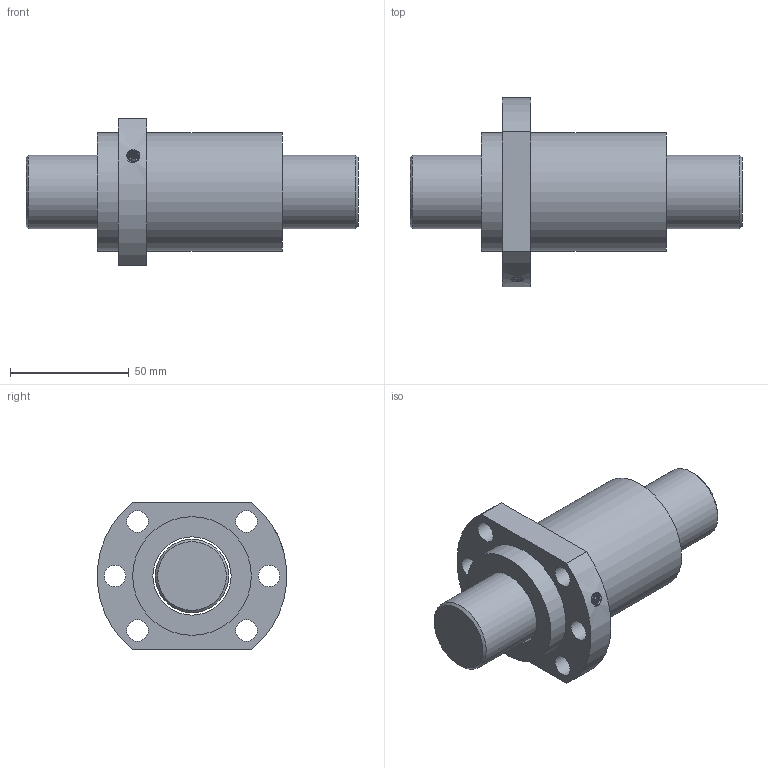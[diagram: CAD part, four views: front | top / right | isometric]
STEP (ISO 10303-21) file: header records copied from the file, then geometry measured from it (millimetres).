
FILE_DESCRIPTION(/* description */ ('Unknown','CAx-IF Rec.Pracs.---Representation and Presentation of Product Manufacturing Information (PMI)---4.0---2014-10-13','CAx-IF Rec.Pracs.---3D Tessellated Geometry---0.4---2014-09-14','2;1'),/* implementation_level */ '2;1');
FILE_NAME(/* name */ 'SFA3232-1.8',/* time_stamp */ '2020-12-08T08:59:52+08:00',/* author */ ('Unknown'),/* organization */ ('Unknown'),/* preprocessor_version */ 'ST-DEVELOPER v16.7',/* originating_system */ 'Solid Edge',/* authorisation */ 'Unknown');
FILE_SCHEMA (('AP242_MANAGED_MODEL_BASED_3D_ENGINEERING_MIM_LF { 1 0 10303 442 1 1 4 }'));
Length unit declared in the file: millimetre
Products named in the file (1): SFA3232-1
Bounding box: 140 x 79.74 x 62 mm (x, y, z)
Volume: 216348.1 mm3; surface area: 45159.1 mm2
Topology: 2 solids, 2 shells, 28 faces, 65 edges, 44 vertices
Faces by surface type: cylinder 15, plane 9, bspline 2, cone 2
Full cylindrical faces by diameter (mm): 4 x1, 9 x6, 31 x1, 33 x1, 50 x2
Entity records: 3125 total; most frequent: CARTESIAN_POINT 2454, DIRECTION 126, ORIENTED_EDGE 96, EDGE_LOOP 60, FACE_BOUND 60, AXIS2_PLACEMENT_3D 60, EDGE_CURVE 48, VERTEX_POINT 40
